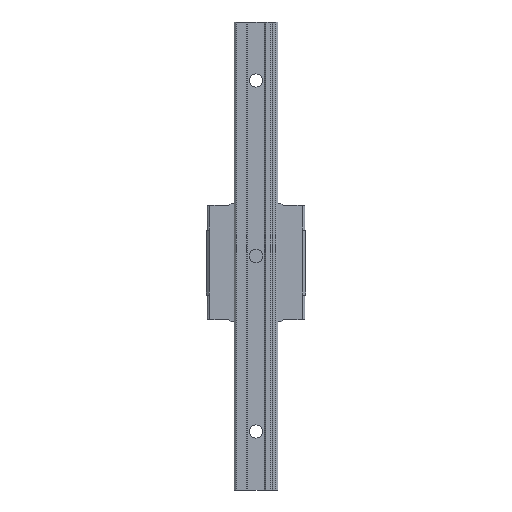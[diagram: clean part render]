
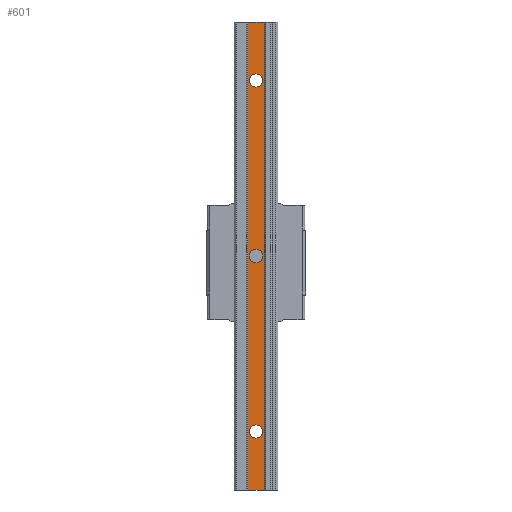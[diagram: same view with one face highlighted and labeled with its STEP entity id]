
A CAD part, front view. The second image highlights one B-rep face of the part: STEP entity #601.
In plain terms, the highlighted planar face has unit normal (0, -1, 0).
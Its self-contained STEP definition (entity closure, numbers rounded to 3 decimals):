
#512=CARTESIAN_POINT('',(-2.85,-10.05,-80.0));
#513=VERTEX_POINT('',#512);
#520=CARTESIAN_POINT('',(-2.85,-10.05,80.0));
#521=VERTEX_POINT('',#520);
#522=CARTESIAN_POINT('',(-2.85,-10.05,80.0));
#523=DIRECTION('',(0.0,0.0,-1.0));
#524=VECTOR('',#523,160.0);
#525=LINE('',#522,#524);
#526=EDGE_CURVE('',#521,#513,#525,.T.);
#538=CARTESIAN_POINT('',(2.518,-10.05,100.0));
#539=DIRECTION('',(0.0,-1.0,0.0));
#540=DIRECTION('',(0.0,0.0,-1.0));
#541=AXIS2_PLACEMENT_3D('',#538,#539,#540);
#542=PLANE('',#541);
#543=CARTESIAN_POINT('',(2.85,-10.05,-80.0));
#544=VERTEX_POINT('',#543);
#545=CARTESIAN_POINT('',(2.85,-10.05,-80.0));
#546=DIRECTION('',(-1.0,0.0,0.0));
#547=VECTOR('',#546,5.7);
#548=LINE('',#545,#547);
#549=EDGE_CURVE('',#544,#513,#548,.T.);
#550=ORIENTED_EDGE('',*,*,#549,.F.);
#551=CARTESIAN_POINT('',(2.85,-10.05,80.0));
#552=VERTEX_POINT('',#551);
#553=CARTESIAN_POINT('',(2.85,-10.05,80.0));
#554=DIRECTION('',(0.0,0.0,-1.0));
#555=VECTOR('',#554,160.0);
#556=LINE('',#553,#555);
#557=EDGE_CURVE('',#552,#544,#556,.T.);
#558=ORIENTED_EDGE('',*,*,#557,.F.);
#559=CARTESIAN_POINT('',(2.85,-10.05,80.0));
#560=DIRECTION('',(-1.0,0.0,0.0));
#561=VECTOR('',#560,5.7);
#562=LINE('',#559,#561);
#563=EDGE_CURVE('',#552,#521,#562,.T.);
#564=ORIENTED_EDGE('',*,*,#563,.T.);
#565=ORIENTED_EDGE('',*,*,#526,.T.);
#566=EDGE_LOOP('',(#550,#558,#564,#565));
#567=FACE_OUTER_BOUND('',#566,.T.);
#568=CARTESIAN_POINT('',(0.0,-10.05,2.25));
#569=VERTEX_POINT('',#568);
#570=CARTESIAN_POINT('',(0.0,-10.05,0.));
#571=DIRECTION('',(0.0,-1.0,0.0));
#572=DIRECTION('',(0.0,0.0,-1.0));
#573=AXIS2_PLACEMENT_3D('',#570,#571,#572);
#574=CIRCLE('',#573,2.25);
#575=EDGE_CURVE('',#569,#569,#574,.T.);
#576=ORIENTED_EDGE('',*,*,#575,.F.);
#577=EDGE_LOOP('',(#576));
#578=FACE_BOUND('',#577,.T.);
#579=CARTESIAN_POINT('',(0.0,-10.05,62.25));
#580=VERTEX_POINT('',#579);
#581=CARTESIAN_POINT('',(0.0,-10.05,60.0));
#582=DIRECTION('',(0.0,-1.0,0.0));
#583=DIRECTION('',(0.0,0.0,-1.0));
#584=AXIS2_PLACEMENT_3D('',#581,#582,#583);
#585=CIRCLE('',#584,2.25);
#586=EDGE_CURVE('',#580,#580,#585,.T.);
#587=ORIENTED_EDGE('',*,*,#586,.F.);
#588=EDGE_LOOP('',(#587));
#589=FACE_BOUND('',#588,.T.);
#590=CARTESIAN_POINT('',(0.0,-10.05,-57.75));
#591=VERTEX_POINT('',#590);
#592=CARTESIAN_POINT('',(0.0,-10.05,-60.));
#593=DIRECTION('',(0.0,-1.0,0.0));
#594=DIRECTION('',(0.0,0.0,-1.0));
#595=AXIS2_PLACEMENT_3D('',#592,#593,#594);
#596=CIRCLE('',#595,2.25);
#597=EDGE_CURVE('',#591,#591,#596,.T.);
#598=ORIENTED_EDGE('',*,*,#597,.F.);
#599=EDGE_LOOP('',(#598));
#600=FACE_BOUND('',#599,.T.);
#601=ADVANCED_FACE('',(#567,#578,#589,#600),#542,.T.);
